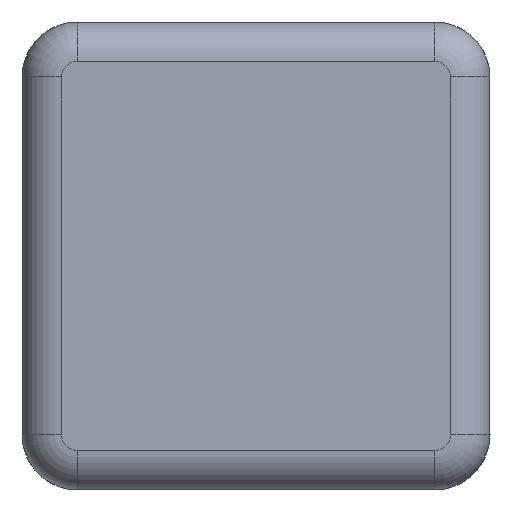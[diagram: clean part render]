
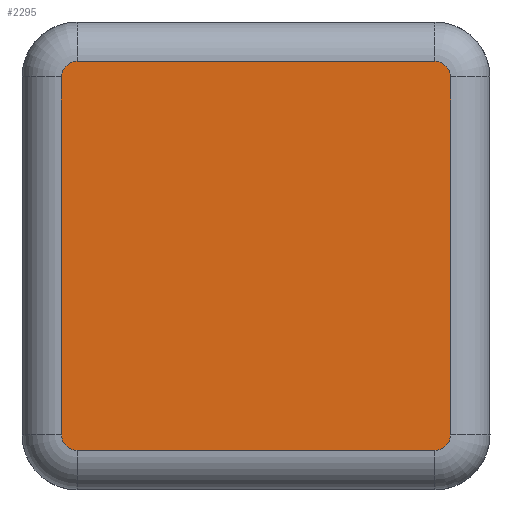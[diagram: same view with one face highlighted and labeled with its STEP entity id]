
A CAD part, top view. The second image highlights one B-rep face of the part: STEP entity #2295.
In plain terms, the highlighted planar face has unit normal (0, 0, 1).
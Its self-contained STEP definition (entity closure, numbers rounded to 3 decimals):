
#14 = CARTESIAN_POINT ( 'NONE',  ( 0., -12.47, 0. ) ) ;
#49 = DIRECTION ( 'NONE',  ( 1., 0., 0. ) ) ;
#139 = CARTESIAN_POINT ( 'NONE',  ( -12.47, 11.473, 0. ) ) ;
#222 = CARTESIAN_POINT ( 'NONE',  ( 12.47, -11.473, 0. ) ) ;
#260 = AXIS2_PLACEMENT_3D ( 'NONE', #1562, #1947, #2363 ) ;
#282 = CARTESIAN_POINT ( 'NONE',  ( 12.47, 0., 0. ) ) ;
#303 = CARTESIAN_POINT ( 'NONE',  ( -11.473, 12.47, 0. ) ) ;
#372 = ORIENTED_EDGE ( 'NONE', *, *, #1527, .T. ) ;
#392 = EDGE_CURVE ( 'NONE', #1604, #1379, #1203, .T. ) ;
#397 = DIRECTION ( 'NONE',  ( -1., 0., 0. ) ) ;
#428 = FACE_OUTER_BOUND ( 'NONE', #2013, .T. ) ;
#453 = VECTOR ( 'NONE', #575, 1000. ) ;
#518 = EDGE_CURVE ( 'NONE', #628, #1399, #950, .T. ) ;
#575 = DIRECTION ( 'NONE',  ( 1., 0., 0. ) ) ;
#628 = VERTEX_POINT ( 'NONE', #222 ) ;
#658 = EDGE_CURVE ( 'NONE', #1930, #1255, #705, .T. ) ;
#690 = LINE ( 'NONE', #1265, #1140 ) ;
#705 = CIRCLE ( 'NONE', #2138, 0.997 ) ;
#718 = EDGE_CURVE ( 'NONE', #1604, #1399, #1361, .T. ) ;
#757 = CARTESIAN_POINT ( 'NONE',  ( 12.47, 11.473, 0. ) ) ;
#843 = CARTESIAN_POINT ( 'NONE',  ( 11.473, 12.47, 0. ) ) ;
#856 = ORIENTED_EDGE ( 'NONE', *, *, #898, .T. ) ;
#891 = EDGE_CURVE ( 'NONE', #1202, #1255, #690, .T. ) ;
#898 = EDGE_CURVE ( 'NONE', #628, #2118, #2193, .T. ) ;
#925 = ORIENTED_EDGE ( 'NONE', *, *, #891, .T. ) ;
#933 = CARTESIAN_POINT ( 'NONE',  ( 11.473, -11.473, 0. ) ) ;
#950 = CIRCLE ( 'NONE', #1409, 0.997 ) ;
#1076 = AXIS2_PLACEMENT_3D ( 'NONE', #2420, #2038, #49 ) ;
#1101 = LINE ( 'NONE', #1893, #1532 ) ;
#1140 = VECTOR ( 'NONE', #2041, 1000. ) ;
#1202 = VERTEX_POINT ( 'NONE', #843 ) ;
#1203 = CIRCLE ( 'NONE', #1076, 0.997 ) ;
#1255 = VERTEX_POINT ( 'NONE', #303 ) ;
#1265 = CARTESIAN_POINT ( 'NONE',  ( 0., 12.47, 0. ) ) ;
#1361 = LINE ( 'NONE', #14, #453 ) ;
#1379 = VERTEX_POINT ( 'NONE', #1446 ) ;
#1395 = ORIENTED_EDGE ( 'NONE', *, *, #392, .F. ) ;
#1399 = VERTEX_POINT ( 'NONE', #2047 ) ;
#1409 = AXIS2_PLACEMENT_3D ( 'NONE', #933, #2464, #1898 ) ;
#1446 = CARTESIAN_POINT ( 'NONE',  ( -12.47, -11.473, 0. ) ) ;
#1526 = ORIENTED_EDGE ( 'NONE', *, *, #658, .F. ) ;
#1527 = EDGE_CURVE ( 'NONE', #1930, #1379, #1101, .T. ) ;
#1532 = VECTOR ( 'NONE', #2072, 1000. ) ;
#1562 = CARTESIAN_POINT ( 'NONE',  ( 0., 0., 0. ) ) ;
#1580 = PLANE ( 'NONE',  #260 ) ;
#1604 = VERTEX_POINT ( 'NONE', #2134 ) ;
#1633 = DIRECTION ( 'NONE',  ( -1., 0., 0. ) ) ;
#1719 = ORIENTED_EDGE ( 'NONE', *, *, #2163, .F. ) ;
#1837 = DIRECTION ( 'NONE',  ( 0., 0., -1. ) ) ;
#1893 = CARTESIAN_POINT ( 'NONE',  ( -12.47, 0., 0. ) ) ;
#1898 = DIRECTION ( 'NONE',  ( 1., 0., 0. ) ) ;
#1918 = VECTOR ( 'NONE', #2445, 1000. ) ;
#1930 = VERTEX_POINT ( 'NONE', #139 ) ;
#1938 = CARTESIAN_POINT ( 'NONE',  ( -11.473, 11.473, 0. ) ) ;
#1947 = DIRECTION ( 'NONE',  ( 0., 0., 1. ) ) ;
#1950 = ORIENTED_EDGE ( 'NONE', *, *, #518, .F. ) ;
#2013 = EDGE_LOOP ( 'NONE', ( #1526, #372, #1395, #2283, #1950, #856, #1719, #925 ) ) ;
#2038 = DIRECTION ( 'NONE',  ( 0., 0., -1. ) ) ;
#2041 = DIRECTION ( 'NONE',  ( -1., 0., 0. ) ) ;
#2047 = CARTESIAN_POINT ( 'NONE',  ( 11.473, -12.47, 0. ) ) ;
#2072 = DIRECTION ( 'NONE',  ( 0., -1., 0. ) ) ;
#2118 = VERTEX_POINT ( 'NONE', #757 ) ;
#2134 = CARTESIAN_POINT ( 'NONE',  ( -11.473, -12.47, 0. ) ) ;
#2138 = AXIS2_PLACEMENT_3D ( 'NONE', #1938, #2532, #397 ) ;
#2163 = EDGE_CURVE ( 'NONE', #1202, #2118, #2352, .T. ) ;
#2193 = LINE ( 'NONE', #282, #1918 ) ;
#2220 = CARTESIAN_POINT ( 'NONE',  ( 11.473, 11.473, 0. ) ) ;
#2283 = ORIENTED_EDGE ( 'NONE', *, *, #718, .T. ) ;
#2295 = ADVANCED_FACE ( 'NONE', ( #428 ), #1580, .T. ) ;
#2352 = CIRCLE ( 'NONE', #2439, 0.997 ) ;
#2363 = DIRECTION ( 'NONE',  ( 1., 0., 0. ) ) ;
#2420 = CARTESIAN_POINT ( 'NONE',  ( -11.473, -11.473, 0. ) ) ;
#2439 = AXIS2_PLACEMENT_3D ( 'NONE', #2220, #1837, #1633 ) ;
#2445 = DIRECTION ( 'NONE',  ( 0., 1., 0. ) ) ;
#2464 = DIRECTION ( 'NONE',  ( 0., 0., -1. ) ) ;
#2532 = DIRECTION ( 'NONE',  ( 0., 0., -1. ) ) ;
